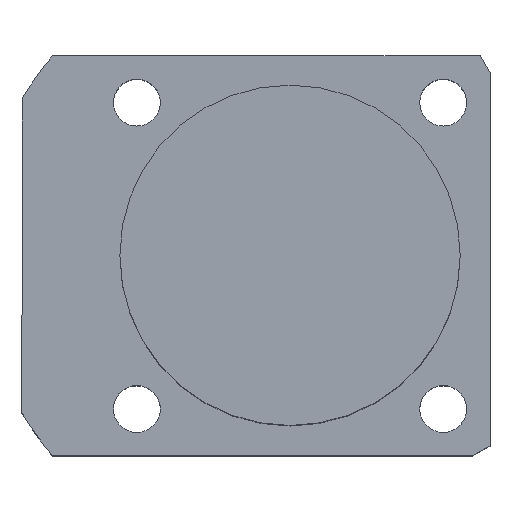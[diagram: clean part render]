
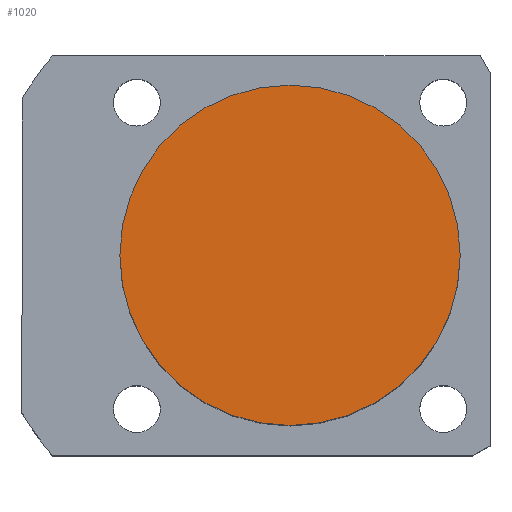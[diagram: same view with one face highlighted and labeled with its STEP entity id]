
A CAD part, top view. The second image highlights one B-rep face of the part: STEP entity #1020.
In plain terms, the highlighted planar face has unit normal (0, 0, 1).
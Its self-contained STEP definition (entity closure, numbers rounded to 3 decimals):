
#179 = CIRCLE ( 'NONE', #1906, 20. ) ;
#201 = EDGE_CURVE ( 'NONE', #1223, #1421, #179, .T. ) ;
#217 = EDGE_CURVE ( 'NONE', #1421, #1223, #462, .T. ) ;
#462 = CIRCLE ( 'NONE', #1262, 20. ) ;
#466 = CARTESIAN_POINT ( 'NONE',  ( 0., 0., 46.5 ) ) ;
#623 = PLANE ( 'NONE',  #783 ) ;
#678 = DIRECTION ( 'NONE',  ( 0., 0., 1. ) ) ;
#783 = AXIS2_PLACEMENT_3D ( 'NONE', #466, #1770, #1500 ) ;
#863 = DIRECTION ( 'NONE',  ( 1., 0., 0. ) ) ;
#888 = ORIENTED_EDGE ( 'NONE', *, *, #201, .T. ) ;
#981 = DIRECTION ( 'NONE',  ( 1., 0., 0. ) ) ;
#1020 = ADVANCED_FACE ( 'NONE', ( #1193 ), #623, .T. ) ;
#1135 = ORIENTED_EDGE ( 'NONE', *, *, #217, .T. ) ;
#1193 = FACE_OUTER_BOUND ( 'NONE', #1403, .T. ) ;
#1223 = VERTEX_POINT ( 'NONE', #1793 ) ;
#1262 = AXIS2_PLACEMENT_3D ( 'NONE', #1737, #1295, #863 ) ;
#1295 = DIRECTION ( 'NONE',  ( 0., 0., 1. ) ) ;
#1403 = EDGE_LOOP ( 'NONE', ( #1135, #888 ) ) ;
#1421 = VERTEX_POINT ( 'NONE', #1851 ) ;
#1500 = DIRECTION ( 'NONE',  ( 1., 0., 0. ) ) ;
#1558 = CARTESIAN_POINT ( 'NONE',  ( 0., 0., 46.5 ) ) ;
#1737 = CARTESIAN_POINT ( 'NONE',  ( 0., 0., 46.5 ) ) ;
#1770 = DIRECTION ( 'NONE',  ( 0., 0., 1. ) ) ;
#1793 = CARTESIAN_POINT ( 'NONE',  ( 20., 0., 46.5 ) ) ;
#1851 = CARTESIAN_POINT ( 'NONE',  ( -20., 0., 46.5 ) ) ;
#1906 = AXIS2_PLACEMENT_3D ( 'NONE', #1558, #678, #981 ) ;
